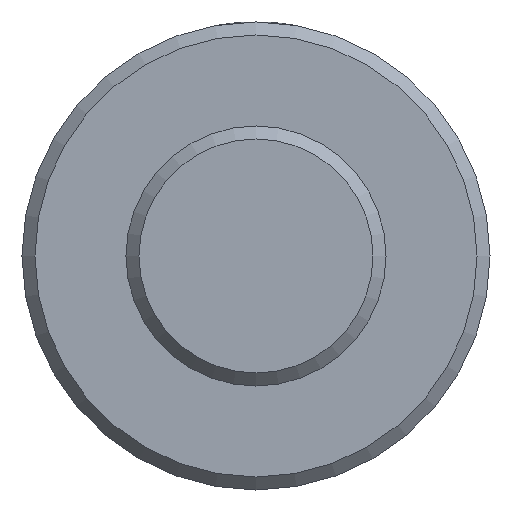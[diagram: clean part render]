
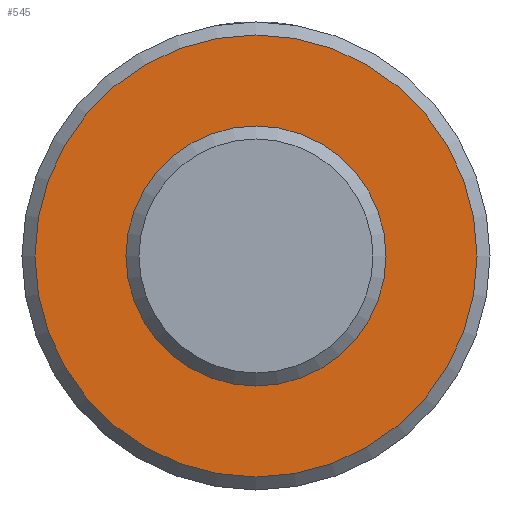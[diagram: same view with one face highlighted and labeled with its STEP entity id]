
A CAD part, left-side view. The second image highlights one B-rep face of the part: STEP entity #545.
In plain terms, the highlighted conical face has half-angle 90 degrees and reference radius 14 mm.
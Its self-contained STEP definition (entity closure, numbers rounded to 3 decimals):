
#21 = CARTESIAN_POINT ( 'NONE',  ( -55., 0., -10. ) ) ;
#32 = CONICAL_SURFACE ( 'NONE', #801, 14., 1.571 ) ;
#37 = EDGE_LOOP ( 'NONE', ( #125 ) ) ;
#52 = FACE_BOUND ( 'NONE', #188, .T. ) ;
#125 = ORIENTED_EDGE ( 'NONE', *, *, #174, .T. ) ;
#130 = DIRECTION ( 'NONE',  ( 0., 0., 1. ) ) ;
#171 = CIRCLE ( 'NONE', #229, 10. ) ;
#174 = EDGE_CURVE ( 'NONE', #750, #750, #735, .T. ) ;
#188 = EDGE_LOOP ( 'NONE', ( #561 ) ) ;
#229 = AXIS2_PLACEMENT_3D ( 'NONE', #272, #793, #674 ) ;
#272 = CARTESIAN_POINT ( 'NONE',  ( -55., 0., 0. ) ) ;
#367 = CARTESIAN_POINT ( 'NONE',  ( -55., 0., 17. ) ) ;
#392 = DIRECTION ( 'NONE',  ( -1., 0., 0. ) ) ;
#393 = DIRECTION ( 'NONE',  ( 0., 0., 1. ) ) ;
#453 = FACE_OUTER_BOUND ( 'NONE', #37, .T. ) ;
#506 = AXIS2_PLACEMENT_3D ( 'NONE', #516, #707, #393 ) ;
#516 = CARTESIAN_POINT ( 'NONE',  ( -55., 0., 0. ) ) ;
#545 = ADVANCED_FACE ( 'NONE', ( #52, #453 ), #32, .F. ) ;
#561 = ORIENTED_EDGE ( 'NONE', *, *, #720, .F. ) ;
#658 = CARTESIAN_POINT ( 'NONE',  ( -55., 0., 0. ) ) ;
#674 = DIRECTION ( 'NONE',  ( 0., 0., -1. ) ) ;
#707 = DIRECTION ( 'NONE',  ( -1., 0., 0. ) ) ;
#720 = EDGE_CURVE ( 'NONE', #813, #813, #171, .T. ) ;
#735 = CIRCLE ( 'NONE', #506, 17. ) ;
#750 = VERTEX_POINT ( 'NONE', #367 ) ;
#793 = DIRECTION ( 'NONE',  ( -1., 0., 0. ) ) ;
#801 = AXIS2_PLACEMENT_3D ( 'NONE', #658, #392, #130 ) ;
#813 = VERTEX_POINT ( 'NONE', #21 ) ;
